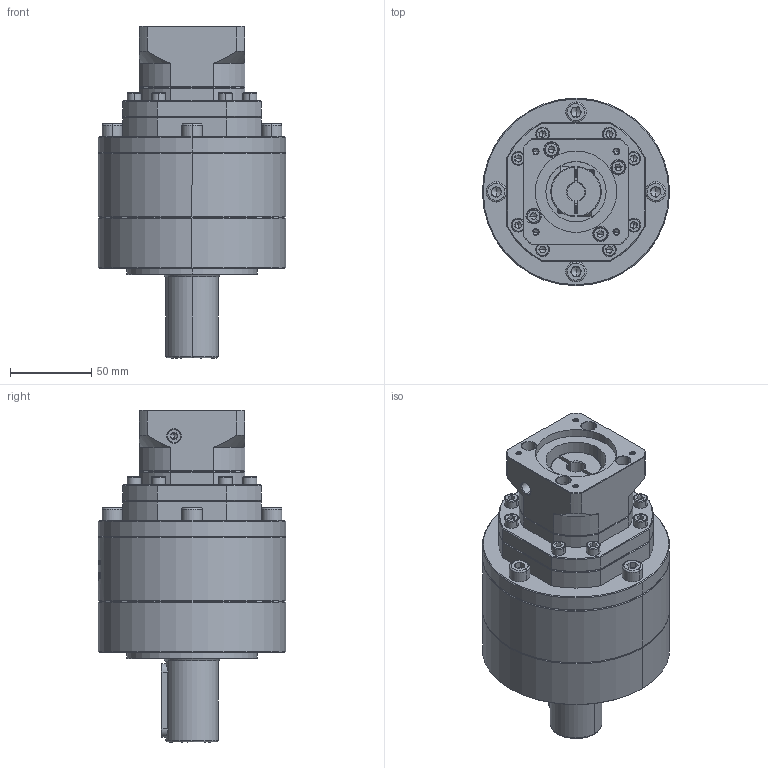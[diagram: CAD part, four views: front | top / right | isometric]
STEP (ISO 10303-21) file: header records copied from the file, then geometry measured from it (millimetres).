
FILE_DESCRIPTION (( 'STEP AP214' ), '1' );
FILE_NAME ('ZE120A-D32-L3-11-50-70-M4.step', '2023-03-09T15:34:03', ( '' ), ( 'Microsoft' ), 'SwSTEP 2.0', 'SolidWorks 2016', '' );
FILE_SCHEMA (( 'AUTOMOTIVE_DESIGN' ));
Length unit declared in the file: millimetre
Products named in the file (1): ZE120A-D32-L3-11-50-70-M4
Bounding box: 115 x 115 x 204 mm (x, y, z)
Volume: 1167266.2 mm3; surface area: 111921.2 mm2
Topology: 7 solids, 7 shells, 2155 faces, 5703 edges, 3650 vertices
Faces by surface type: plane 981, cylinder 509, bspline 349, cone 294, torus 22
Entity records: 118504 total; most frequent: CARTESIAN_POINT 45943, ORIENTED_EDGE 11282, DIRECTION 8676, EDGE_CURVE 5641, VERTEX_POINT 3650, LINE 3014, VECTOR 3014, AXIS2_PLACEMENT_3D 2831
